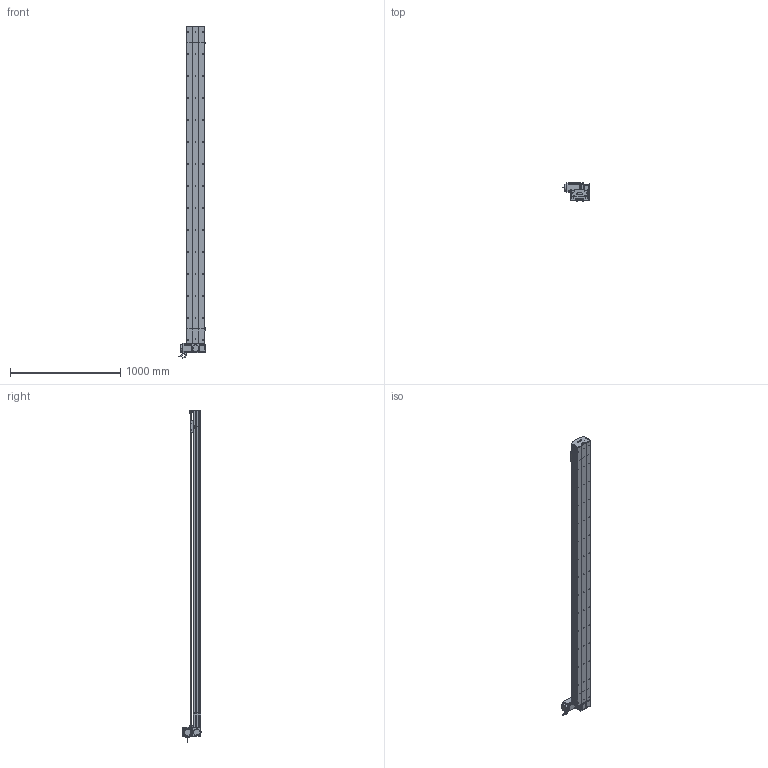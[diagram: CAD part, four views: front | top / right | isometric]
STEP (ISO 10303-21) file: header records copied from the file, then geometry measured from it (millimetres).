
FILE_DESCRIPTION (( 'STEP AP214' ), '1' );
FILE_NAME ('D17 TBN LT S2600.STEP', '2010-06-30T13:04:04', ( 'Conseil Régional Haute-Normandie' ), ( 'Conseil Régional Haute-Normandie' ), 'SwSTEP 2.0', 'SolidWorks 2010', '' );
FILE_SCHEMA (( 'AUTOMOTIVE_DESIGN' ));
Length unit declared in the file: millimetre
Products named in the file (40): course 2600 D17B_Default; Conecteur_Default; Couroie+ rail D17 Course 2600 ; Plaque racord D17_Default; vis M5 L70_Default; Conecteur2_Default; couvercle D17B course L2600_Default; codeur 90BLDC125-640; corp D17B 2600_Default; corpl head D17 _Default; Head LT D17B_Default; corps 90BLDC125A-640; avant 90BLDC125A-640; couvercle D17B head_Default; Moteur motionking 90BLDC125A-640; vis M5 L16_Default; Renvoi LT_Default; plaque de  bout head D17B LT_Default; couroie head D17_Default; cache arbre D17_Default; Arbre+rail head D17B; poulie head_Default; vis M5 L5_Default; cache D17_Default; guide D17; Chariot D17 TBN; vis M5 L8 90°_Default; couvercle D17B_Default; Couroie tail D17B_Default; chariot D17 TBN; vis M5 L25_Default; vis M5 L12_Default; poulie tail_Default; plaque de  bout tail D17B_Default; Rail D17B; tete d''axe poulie D17B; corpl tail D17B_Default; Tail D17B_Default; Vis M5 L16-2_Default; D17 TBN LT S2600
Assembly tree (66 placements, depth 4):
  D17 TBN LT S2600
    Head LT D17B_Default
      cache D17_Default  x2
      Arbre+rail head D17B
      vis M5 L12_Default  x8
      Vis M5 L16-2_Default  x4
      vis M5 L5_Default  x4
      vis M5 L25_Default  x2
      Plaque racord D17_Default
      cache arbre D17_Default
      Moteur motionking 90BLDC125A-640
        codeur 90BLDC125-640
        avant 90BLDC125A-640
        Conecteur_Default
        corps 90BLDC125A-640
        Conecteur2_Default
      plaque de  bout head D17B LT_Default
      vis M5 L70_Default  x4
      corpl head D17 _Default
      vis M5 L16_Default  x2
      Renvoi LT_Default
      poulie head_Default
      couroie head D17_Default
      couvercle D17B head_Default
    chariot D17 TBN
      guide D17  x2
      Chariot D17 TBN
    Tail D17B_Default
      vis M5 L25_Default  x2
      poulie tail_Default
      couvercle D17B_Default
      vis M5 L12_Default  x4
      vis M5 L8 90°_Default  x2
      Couroie tail D17B_Default
      plaque de  bout tail D17B_Default
      corpl tail D17B_Default
      Rail D17B
      tete d''axe poulie D17B
    course 2600 D17B_Default
      couvercle D17B course L2600_Default
      corp D17B 2600_Default
      Couroie+ rail D17 Course 2600 
Bounding box: 245.2 x 166.15 x 3017.95 mm (x, y, z)
Volume: 17249390.8 mm3; surface area: 5019504.2 mm2
Topology: 89 solids, 89 shells, 2627 faces, 6737 edges, 4342 vertices
Faces by surface type: plane 1533, cylinder 797, bspline 136, cone 80, torus 77, sphere 4
Entity records: 85403 total; most frequent: CARTESIAN_POINT 25367, ORIENTED_EDGE 10646, DIRECTION 10052, EDGE_CURVE 5323, VECTOR 3490, LINE 3490, VERTEX_POINT 3486, AXIS2_PLACEMENT_3D 3281
